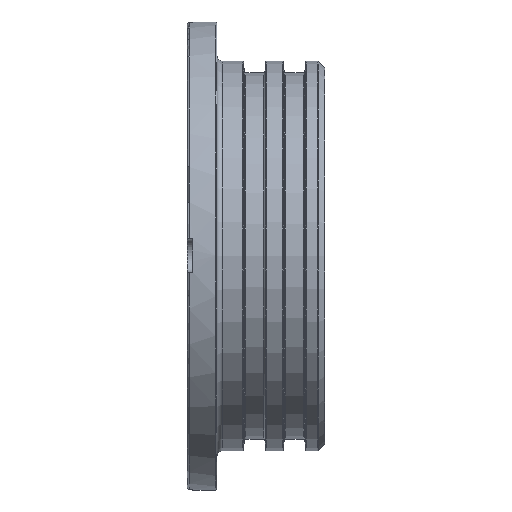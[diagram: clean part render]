
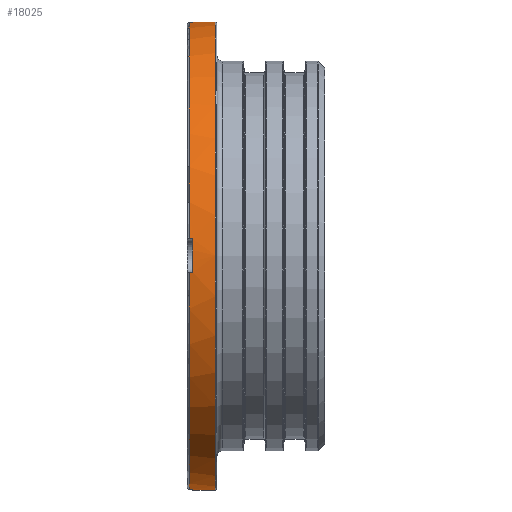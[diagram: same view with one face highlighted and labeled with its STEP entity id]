
A CAD part, top view. The second image highlights one B-rep face of the part: STEP entity #18025.
In plain terms, the highlighted cylindrical face has radius 55.245 mm (diameter 110.49 mm), a partial arc.
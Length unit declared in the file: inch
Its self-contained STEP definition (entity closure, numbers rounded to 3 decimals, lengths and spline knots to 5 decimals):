
#224 = CIRCLE ( 'NONE', #22547, 2.175 ) ;
#450 = EDGE_CURVE ( 'NONE', #26571, #12956, #224, .T. ) ;
#1005 = VERTEX_POINT ( 'NONE', #16787 ) ;
#1284 = VECTOR ( 'NONE', #27759, 39.37008 ) ;
#1475 = EDGE_CURVE ( 'NONE', #14668, #30413, #21059, .T. ) ;
#2122 = DIRECTION ( 'NONE',  ( 0., 0., -1. ) ) ;
#2437 = EDGE_CURVE ( 'NONE', #1005, #15489, #24628, .T. ) ;
#2518 = DIRECTION ( 'NONE',  ( -1., 0., 0. ) ) ;
#2545 = DIRECTION ( 'NONE',  ( 1., 0., 0. ) ) ;
#2995 = EDGE_CURVE ( 'NONE', #26571, #21099, #10203, .T. ) ;
#3427 = DIRECTION ( 'NONE',  ( -1., 0., 0. ) ) ;
#3795 = CARTESIAN_POINT ( 'NONE',  ( 0.05, -0.15625, 2.16938 ) ) ;
#3813 = ORIENTED_EDGE ( 'NONE', *, *, #22137, .T. ) ;
#3929 = ORIENTED_EDGE ( 'NONE', *, *, #450, .T. ) ;
#4293 = ORIENTED_EDGE ( 'NONE', *, *, #6631, .F. ) ;
#4488 = VECTOR ( 'NONE', #24595, 39.37008 ) ;
#4618 = DIRECTION ( 'NONE',  ( 0., -1., 0. ) ) ;
#5004 = CARTESIAN_POINT ( 'NONE',  ( 0.05, -2.16938, 0.15625 ) ) ;
#5725 = VECTOR ( 'NONE', #9466, 39.37008 ) ;
#6107 = CARTESIAN_POINT ( 'NONE',  ( 0.05, 2.175, 0. ) ) ;
#6388 = DIRECTION ( 'NONE',  ( 1., 0., 0. ) ) ;
#6631 = EDGE_CURVE ( 'NONE', #29291, #12956, #28076, .T. ) ;
#6652 = EDGE_CURVE ( 'NONE', #31454, #29330, #21599, .T. ) ;
#7267 = AXIS2_PLACEMENT_3D ( 'NONE', #12454, #31229, #16770 ) ;
#7876 = CARTESIAN_POINT ( 'NONE',  ( 0.26, -2.175, 0. ) ) ;
#8153 = EDGE_CURVE ( 'NONE', #28024, #15489, #28756, .T. ) ;
#8760 = CARTESIAN_POINT ( 'NONE',  ( 1.275, 2.175, 0. ) ) ;
#9030 = DIRECTION ( 'NONE',  ( 0., 0., -1. ) ) ;
#9115 = ORIENTED_EDGE ( 'NONE', *, *, #16881, .F. ) ;
#9265 = CARTESIAN_POINT ( 'NONE',  ( 0.05, 0., 0. ) ) ;
#9466 = DIRECTION ( 'NONE',  ( 1., 0., 0. ) ) ;
#9907 = CYLINDRICAL_SURFACE ( 'NONE', #7267, 2.175 ) ;
#10203 = LINE ( 'NONE', #24676, #27199 ) ;
#10923 = AXIS2_PLACEMENT_3D ( 'NONE', #19083, #24163, #11763 ) ;
#11147 = LINE ( 'NONE', #8760, #15882 ) ;
#11408 = DIRECTION ( 'NONE',  ( -1., 0., 0. ) ) ;
#11763 = DIRECTION ( 'NONE',  ( 0., -1., 0. ) ) ;
#12166 = CARTESIAN_POINT ( 'NONE',  ( 1.275, 2.16938, 0.15625 ) ) ;
#12454 = CARTESIAN_POINT ( 'NONE',  ( 1.275, 0., 0. ) ) ;
#12526 = EDGE_LOOP ( 'NONE', ( #14690, #3813, #14514, #27005, #25582, #9115, #25132, #15904, #27734, #31451, #3929, #4293 ) ) ;
#12548 = AXIS2_PLACEMENT_3D ( 'NONE', #9265, #18659, #2122 ) ;
#12914 = EDGE_CURVE ( 'NONE', #29330, #30413, #11147, .T. ) ;
#12956 = VERTEX_POINT ( 'NONE', #14313 ) ;
#13711 = VECTOR ( 'NONE', #2518, 39.37008 ) ;
#14070 = CIRCLE ( 'NONE', #12548, 2.175 ) ;
#14263 = CARTESIAN_POINT ( 'NONE',  ( 0.26, 0., 0. ) ) ;
#14313 = CARTESIAN_POINT ( 'NONE',  ( 0.015, -2.16938, 0.15625 ) ) ;
#14514 = ORIENTED_EDGE ( 'NONE', *, *, #1475, .T. ) ;
#14668 = VERTEX_POINT ( 'NONE', #7876 ) ;
#14690 = ORIENTED_EDGE ( 'NONE', *, *, #24497, .F. ) ;
#15274 = CARTESIAN_POINT ( 'NONE',  ( 0.26, 2.175, 0. ) ) ;
#15489 = VERTEX_POINT ( 'NONE', #23631 ) ;
#15617 = CARTESIAN_POINT ( 'NONE',  ( 0.015, -0.15625, 2.16938 ) ) ;
#15882 = VECTOR ( 'NONE', #6388, 39.37008 ) ;
#15904 = ORIENTED_EDGE ( 'NONE', *, *, #8153, .F. ) ;
#16770 = DIRECTION ( 'NONE',  ( 0., 1., 0. ) ) ;
#16787 = CARTESIAN_POINT ( 'NONE',  ( 0.015, 2.16938, 0.15625 ) ) ;
#16881 = EDGE_CURVE ( 'NONE', #1005, #31454, #26482, .T. ) ;
#17399 = FACE_OUTER_BOUND ( 'NONE', #12526, .T. ) ;
#18025 = ADVANCED_FACE ( 'NONE', ( #17399 ), #9907, .T. ) ;
#18043 = CARTESIAN_POINT ( 'NONE',  ( 0.05, -2.175, 0. ) ) ;
#18119 = DIRECTION ( 'NONE',  ( -1., 0., 0. ) ) ;
#18233 = CIRCLE ( 'NONE', #30400, 2.175 ) ;
#18659 = DIRECTION ( 'NONE',  ( -1., 0., 0. ) ) ;
#19042 = DIRECTION ( 'NONE',  ( 0., 1., 0. ) ) ;
#19083 = CARTESIAN_POINT ( 'NONE',  ( 0.015, 0., 0. ) ) ;
#20970 = CARTESIAN_POINT ( 'NONE',  ( 0.05, 0., 0. ) ) ;
#21059 = CIRCLE ( 'NONE', #28685, 2.175 ) ;
#21078 = AXIS2_PLACEMENT_3D ( 'NONE', #22976, #3427, #30450 ) ;
#21099 = VERTEX_POINT ( 'NONE', #3795 ) ;
#21599 = CIRCLE ( 'NONE', #21078, 2.175 ) ;
#21990 = DIRECTION ( 'NONE',  ( 1., 0., 0. ) ) ;
#22137 = EDGE_CURVE ( 'NONE', #24427, #14668, #27467, .T. ) ;
#22220 = CARTESIAN_POINT ( 'NONE',  ( 1.275, -2.175, 0. ) ) ;
#22547 = AXIS2_PLACEMENT_3D ( 'NONE', #26383, #2545, #4618 ) ;
#22976 = CARTESIAN_POINT ( 'NONE',  ( 0.05, 0., 0. ) ) ;
#23132 = CARTESIAN_POINT ( 'NONE',  ( 1.275, -2.16938, 0.15625 ) ) ;
#23168 = CARTESIAN_POINT ( 'NONE',  ( 0.05, 0.15625, 2.16938 ) ) ;
#23631 = CARTESIAN_POINT ( 'NONE',  ( 0.015, 0.15625, 2.16938 ) ) ;
#24163 = DIRECTION ( 'NONE',  ( 1., 0., 0. ) ) ;
#24427 = VERTEX_POINT ( 'NONE', #18043 ) ;
#24497 = EDGE_CURVE ( 'NONE', #24427, #29291, #14070, .T. ) ;
#24595 = DIRECTION ( 'NONE',  ( 1., 0., 0. ) ) ;
#24628 = CIRCLE ( 'NONE', #10923, 2.175 ) ;
#24676 = CARTESIAN_POINT ( 'NONE',  ( 1.275, -0.15625, 2.16938 ) ) ;
#25132 = ORIENTED_EDGE ( 'NONE', *, *, #2437, .T. ) ;
#25582 = ORIENTED_EDGE ( 'NONE', *, *, #6652, .F. ) ;
#26044 = CARTESIAN_POINT ( 'NONE',  ( 1.275, 0.15625, 2.16938 ) ) ;
#26383 = CARTESIAN_POINT ( 'NONE',  ( 0.015, 0., 0. ) ) ;
#26452 = CARTESIAN_POINT ( 'NONE',  ( 0.05, 2.16938, 0.15625 ) ) ;
#26482 = LINE ( 'NONE', #12166, #5725 ) ;
#26571 = VERTEX_POINT ( 'NONE', #15617 ) ;
#26945 = EDGE_CURVE ( 'NONE', #21099, #28024, #18233, .T. ) ;
#27005 = ORIENTED_EDGE ( 'NONE', *, *, #12914, .F. ) ;
#27199 = VECTOR ( 'NONE', #21990, 39.37008 ) ;
#27467 = LINE ( 'NONE', #22220, #4488 ) ;
#27734 = ORIENTED_EDGE ( 'NONE', *, *, #26945, .F. ) ;
#27759 = DIRECTION ( 'NONE',  ( -1., 0., 0. ) ) ;
#28024 = VERTEX_POINT ( 'NONE', #23168 ) ;
#28076 = LINE ( 'NONE', #23132, #1284 ) ;
#28685 = AXIS2_PLACEMENT_3D ( 'NONE', #14263, #11408, #19042 ) ;
#28756 = LINE ( 'NONE', #26044, #13711 ) ;
#29291 = VERTEX_POINT ( 'NONE', #5004 ) ;
#29330 = VERTEX_POINT ( 'NONE', #6107 ) ;
#30400 = AXIS2_PLACEMENT_3D ( 'NONE', #20970, #18119, #9030 ) ;
#30413 = VERTEX_POINT ( 'NONE', #15274 ) ;
#30450 = DIRECTION ( 'NONE',  ( 0., 0., -1. ) ) ;
#31229 = DIRECTION ( 'NONE',  ( 1., 0., 0. ) ) ;
#31451 = ORIENTED_EDGE ( 'NONE', *, *, #2995, .F. ) ;
#31454 = VERTEX_POINT ( 'NONE', #26452 ) ;
